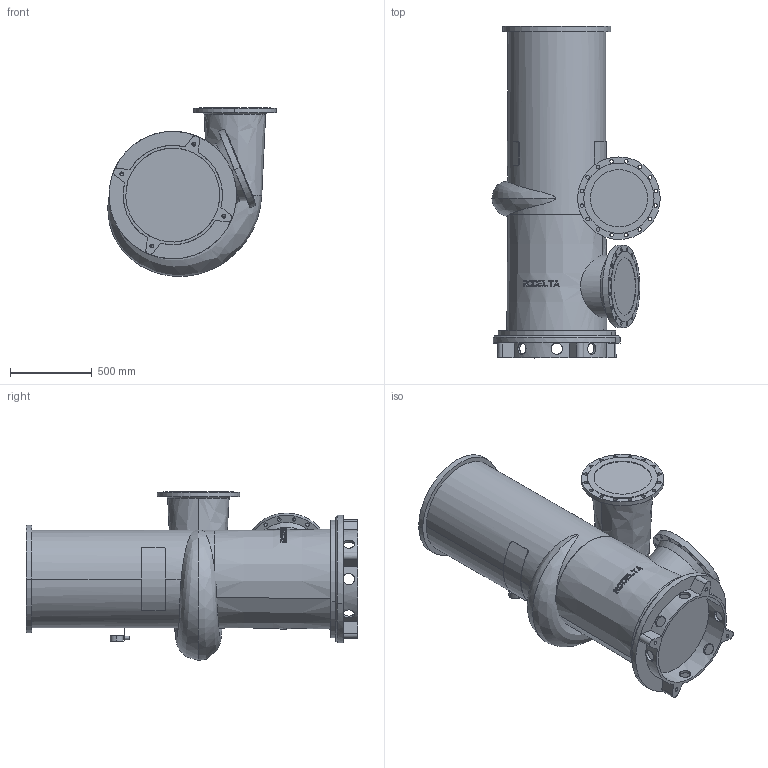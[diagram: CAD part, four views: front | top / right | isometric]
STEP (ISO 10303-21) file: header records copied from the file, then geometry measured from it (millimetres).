
FILE_DESCRIPTION((''),'2;1');
FILE_NAME('14-408_BLAD_ASM','2024-08-07T',('Lyritlocal'),(''),'PRO/ENGINEER BY PARAMETRIC TECHNOLOGY CORPORATION, 2016360','PRO/ENGINEER BY PARAMETRIC TECHNOLOGY CORPORATION, 2016360','');
FILE_SCHEMA(('CONFIG_CONTROL_DESIGN'));
Length unit declared in the file: millimetre
Products named in the file (3): 14-408; 14-408_VOET; 14-408_BLAD_ASM
Assembly tree (2 placements, depth 2):
  14-408_BLAD_ASM
    14-408
    14-408_VOET
Bounding box: 1030.08 x 2030 x 1032.56 mm (x, y, z)
Volume: 689139970.2 mm3; surface area: 7600964.2 mm2
Topology: 2 solids, 6 shells, 519 faces, 1412 edges, 930 vertices
Faces by surface type: plane 323, cylinder 154, cone 36, bspline 6
Entity records: 18592 total; most frequent: CARTESIAN_POINT 5752, ORIENTED_EDGE 2792, DIRECTION 2423, EDGE_CURVE 1404, AXIS2_PLACEMENT_3D 943, VERTEX_POINT 930, EDGE_LOOP 640, VECTOR 537
